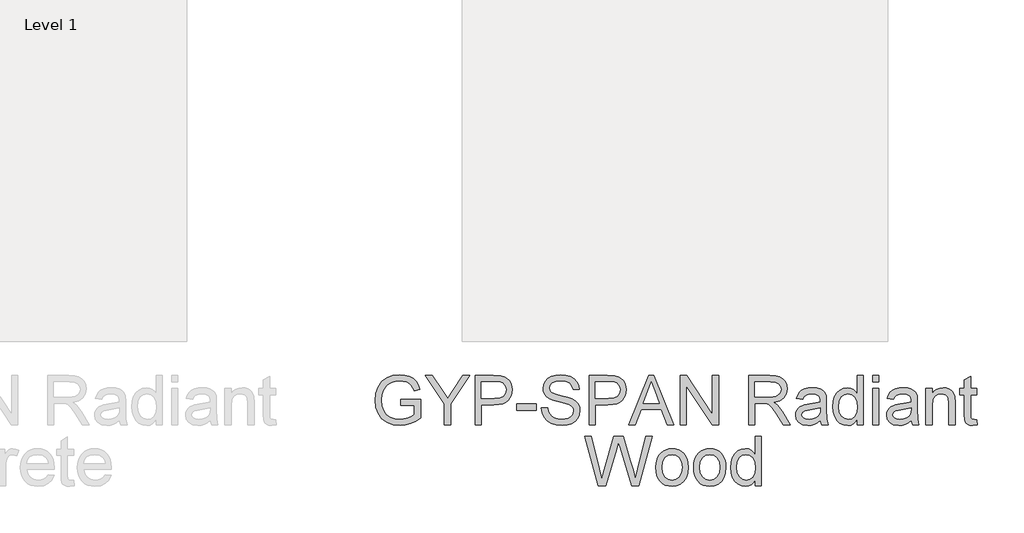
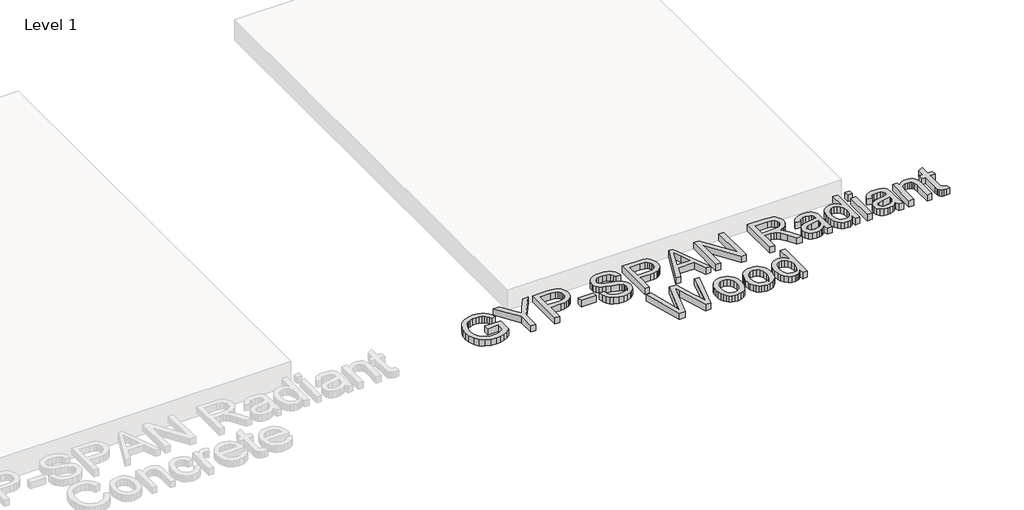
# One storey, part 2 of 2: 1 proxy.
"""IFC4 building model written with IfcOpenShell, lengths in millimetres."""

from ifc_helpers import new_model, si_unit, origin, origin_with_axes, place, context, project, spatial, polyline, outline, extrude, element, save

model = new_model("IFC4")

# Units and contexts
model_context = context("Model", 3, world=origin())
ifc_project = project(units=[si_unit("LENGTHUNIT", "METRE", prefix="MILLI")], contexts=[model_context])

# Site, building, storey
site = spatial("IfcSite", under=ifc_project)
building = spatial("IfcBuilding", under=site)
storey = spatial("IfcBuildingStorey", under=building, Name="Level 1", Elevation=0.0)

# Proxy
placement = place(None, origin())
element("IfcBuildingElementProxy", 1, Name="600mm Arial", ObjectType="600mm Arial", at=placement, inside=storey, context=model_context, shape_type="SweptSolid", body=[
    extrude(outline(polyline([(-5648.8051572, -2078.2071113), (-5648.8051572, -2040.6932652), (-5526.8851572, -2040.6932652), (-5526.8851572, -2152.8684575), (-5556.5134024, -2173.4754287), (-5587.0758303, -2188.257496), (-5618.4991717, -2197.1597075), (-5650.7101572, -2200.1271113), (-5692.7941717, -2195.4104046), (-5730.8300611, -2181.2602844), (-5762.4274169, -2158.1713181), (-5785.1958303, -2126.6380729), (-5798.9612871, -2088.8128325), (-5803.5497726, -2046.8478806), (-5798.9796044, -2004.5806931), (-5785.2690996, -1965.2625921), (-5762.9860947, -1932.2822796), (-5732.6984265, -1909.0284575), (-5695.8073688, -1895.2355248), (-5653.7141957, -1890.6378806), (-5622.8128976, -1893.3030488), (-5595.0255419, -1901.2985537), (-5571.6251813, -1914.0473998), (-5553.8848688, -1930.9725921), (-5540.7605178, -1952.8892508), (-5531.2080419, -1980.612496), (-5565.7911188, -1990.3573037), (-5573.511864, -1970.58377), (-5582.8994842, -1955.6643229), (-5595.3186188, -1944.417496), (-5612.1339072, -1935.6618229), (-5632.1822005, -1930.0292508), (-5654.3003496, -1928.1517267), (-5680.191864, -1930.1757892), (-5702.3283303, -1936.2479767), (-5720.6273207, -1945.608121), (-5735.0064072, -1957.4960537), (-5754.3128496, -1986.4007652), (-5763.1051572, -2014.7193229), (-5766.0359265, -2045.3092267), (-5762.5098447, -2081.1836738), (-5751.9315996, -2110.7020152), (-5734.6217438, -2133.6536017), (-5710.9008303, -2149.8277844), (-5683.1409505, -2159.416895), (-5653.7141957, -2162.6132652), (-5627.7310947, -2160.2045392), (-5602.3890996, -2152.9783613), (-5580.3808544, -2143.0229046), (-5564.3990034, -2132.4263421), (-5564.3990034, -2078.2071113), (-5648.8051572, -2078.2071113)])), origin_with_axes(), (0.0, 0.0, 1.0), 50.8),
    extrude(outline(polyline([(-5381.5190034, -2195.4378806), (-5381.5190034, -2068.3157652), (-5498.7497726, -1895.3271113), (-5454.4951572, -1895.3271113), (-5391.9232342, -1987.7196113), (-5359.9045803, -2034.8317267), (-5327.8126572, -1984.3492267), (-5271.0290034, -1895.3271113), (-5226.774388, -1895.3271113), (-5344.0051572, -2068.3157652), (-5344.0051572, -2195.4378806), (-5381.5190034, -2195.4378806)])), origin_with_axes(), (0.0, 0.0, 1.0), 50.8),
    extrude(outline(polyline([(-5193.9497726, -2195.4378806), (-5193.9497726, -1895.3271113), (-5082.7270803, -1895.3271113), (-5037.8863111, -1898.1846113), (-5017.8929697, -1903.5241065), (-5001.4348688, -1912.215669), (-4988.1822967, -1924.653121), (-4977.8055419, -1941.2302844), (-4971.1014072, -1960.7840104), (-4968.8666957, -1982.1511498), (-4970.3755839, -2000.573782), (-4974.9022486, -2017.521871), (-4982.4466897, -2032.9954166), (-4993.0089072, -2046.994419), (-5007.5093459, -2058.5984335), (-5026.8684505, -2066.8870152), (-5051.0862209, -2071.8601642), (-5080.1626572, -2073.5178806), (-5156.4359265, -2073.5178806), (-5156.4359265, -2195.4378806), (-5193.9497726, -2195.4378806)]), holes=[polyline([(-5156.4359265, -2036.0040344), (-5077.9645803, -2036.0040344), (-5044.7003496, -2032.5603806), (-5022.7195803, -2022.229419), (-5010.4653015, -2005.6522556), (-5006.3805419, -1983.469996), (-5008.7892678, -1966.6180729), (-5016.0154457, -1952.4038421), (-5027.1615274, -1941.7065344), (-5041.3299649, -1935.4053806), (-5078.8438111, -1932.8409575), (-5156.4359265, -1932.8409575), (-5156.4359265, -2036.0040344)])]), origin_with_axes(), (0.0, 0.0, 1.0), 50.8),
    extrude(outline(polyline([(-4940.7313111, -2106.342496), (-4940.7313111, -2068.8286498), (-4823.5005419, -2068.8286498), (-4823.5005419, -2106.342496), (-4940.7313111, -2106.342496)])), origin_with_axes(), (0.0, 0.0, 1.0), 50.8),
    extrude(outline(polyline([(-4790.6759265, -2092.2748037), (-4753.1620803, -2092.2748037), (-4748.857513, -2113.0924238), (-4741.0726572, -2129.8252844), (-4728.9282822, -2143.1053325), (-4711.5451572, -2153.5645152), (-4690.2970803, -2160.3510777), (-4666.5578496, -2162.6132652), (-4645.6578015, -2160.9005969), (-4627.3588111, -2155.7625921), (-4612.5309505, -2147.6297075), (-4602.0442919, -2136.9323998), (-4595.8072486, -2124.650645), (-4593.7282342, -2111.764419), (-4595.2852053, -2099.2079046), (-4599.9561188, -2088.3548998), (-4609.4444842, -2079.0955008), (-4625.4538111, -2071.3198037), (-4680.0760226, -2056.995669), (-4715.9321524, -2047.5164623), (-4738.8745803, -2038.4951883), (-4757.5490755, -2025.8745633), (-4770.7833303, -2010.5796113), (-4778.6689313, -1992.940044), (-4781.2974649, -1973.2855729), (-4778.0461428, -1951.3139623), (-4768.2921765, -1930.8260537), (-4752.2920082, -1913.461246), (-4730.3020803, -1900.8589383), (-4703.9068399, -1893.193145), (-4674.6907342, -1890.6378806), (-4643.0384265, -1893.3122075), (-4615.3426572, -1901.3351883), (-4592.5925611, -1914.5419671), (-4575.7772726, -1932.7676883), (-4565.1349169, -1954.8766787), (-4560.9036188, -1979.7332652), (-4598.4174649, -1979.7332652), (-4605.3047726, -1957.3495152), (-4619.6655419, -1941.1936498), (-4642.1042438, -1931.4122075), (-4673.2253496, -1928.1517267), (-4705.0791476, -1931.3755729), (-4726.9316957, -1941.0471113), (-4739.570638, -1955.2796594), (-4743.7836188, -1972.1865344), (-4740.7978976, -1986.6022556), (-4731.8407342, -1998.1971113), (-4710.6659265, -2008.5647075), (-4670.5876572, -2019.1521113), (-4629.2271765, -2029.2083133), (-4604.2057342, -2037.9823037), (-4582.8202774, -2051.5920633), (-4567.9008303, -2068.3890344), (-4559.1359986, -2088.190044), (-4556.214388, -2110.811919), (-4559.575614, -2133.93752), (-4569.6592919, -2155.6893229), (-4586.0532822, -2174.4096113), (-4608.3454457, -2188.440669), (-4635.1528255, -2197.2055008), (-4665.0924649, -2200.1271113), (-4701.8461428, -2196.9765344), (-4732.0971765, -2187.5248037), (-4756.1935947, -2171.7352844), (-4774.4834265, -2149.5713421), (-4786.2248207, -2122.5716306), (-4790.6759265, -2092.2748037)])), origin_with_axes(), (0.0, 0.0, 1.0), 50.8),
    extrude(outline(polyline([(-4499.9436188, -2195.4378806), (-4499.9436188, -1895.3271113), (-4388.7209265, -1895.3271113), (-4343.8801572, -1898.1846113), (-4323.8868159, -1903.5241065), (-4307.4287149, -1912.215669), (-4294.1761428, -1924.653121), (-4283.799388, -1941.2302844), (-4277.0952534, -1960.7840104), (-4274.8605419, -1982.1511498), (-4276.3694301, -2000.573782), (-4280.8960947, -2017.521871), (-4288.4405359, -2032.9954166), (-4299.0027534, -2046.994419), (-4313.5031921, -2058.5984335), (-4332.8622967, -2066.8870152), (-4357.0800671, -2071.8601642), (-4386.1565034, -2073.5178806), (-4462.4297726, -2073.5178806), (-4462.4297726, -2195.4378806), (-4499.9436188, -2195.4378806)]), holes=[polyline([(-4462.4297726, -2036.0040344), (-4383.9584265, -2036.0040344), (-4350.6941957, -2032.5603806), (-4328.7134265, -2022.229419), (-4316.4591476, -2005.6522556), (-4312.374388, -1983.469996), (-4314.783114, -1966.6180729), (-4322.0092919, -1952.4038421), (-4333.1553736, -1941.7065344), (-4347.3238111, -1935.4053806), (-4384.8376572, -1932.8409575), (-4462.4297726, -1932.8409575), (-4462.4297726, -2036.0040344)])]), origin_with_axes(), (0.0, 0.0, 1.0), 50.8),
    extrude(outline(polyline([(-4258.2284265, -2195.4378806), (-4138.4332342, -1895.3271113), (-4106.4878496, -1895.3271113), (-3986.6926572, -2195.4378806), (-4026.3313111, -2195.4378806), (-4060.6945803, -2101.6532652), (-4184.2997726, -2101.6532652), (-4218.5897726, -2195.4378806), (-4258.2284265, -2195.4378806)]), holes=[polyline([(-4170.5251572, -2064.139419), (-4074.3959265, -2064.139419), (-4101.4322726, -1990.3573037), (-4122.4605419, -1932.8409575), (-4141.1441957, -1983.9096113), (-4170.5251572, -2064.139419)])]), origin_with_axes(), (0.0, 0.0, 1.0), 50.8),
    extrude(outline(polyline([(-3946.614388, -2195.4378806), (-3946.614388, -1895.3271113), (-3906.4628496, -1895.3271113), (-3749.6666957, -2133.0857652), (-3749.6666957, -1895.3271113), (-3712.1528496, -1895.3271113), (-3712.1528496, -2195.4378806), (-3752.304388, -2195.4378806), (-3909.1005419, -1957.6059575), (-3909.1005419, -2195.4378806), (-3946.614388, -2195.4378806)])), origin_with_axes(), (0.0, 0.0, 1.0), 50.8),
    extrude(outline(polyline([(-3529.2728496, -2195.4378806), (-3529.2728496, -1895.3271113), (-3399.9526572, -1895.3271113), (-3365.1955659, -1897.3511738), (-3339.9085226, -1903.4233613), (-3321.4263592, -1914.6335537), (-3307.0839072, -1932.0716306), (-3297.8794601, -1953.6952123), (-3294.8113111, -1977.461919), (-3299.894364, -2007.0260537), (-3315.1435226, -2031.5346113), (-3326.6948748, -2041.5221234), (-3341.0167197, -2049.5038902), (-3377.971888, -2059.4501883), (-3356.6505419, -2075.4961498), (-3326.2438111, -2114.1090344), (-3276.2009265, -2195.4378806), (-3319.7961188, -2195.4378806), (-3358.8486188, -2133.2323037), (-3387.0572726, -2092.054996), (-3406.8765996, -2072.6020152), (-3424.7176572, -2065.4582652), (-3446.4786188, -2064.139419), (-3491.7590034, -2064.139419), (-3491.7590034, -2195.4378806), (-3529.2728496, -2195.4378806)]), holes=[polyline([(-3491.7590034, -2026.6255729), (-3407.7924649, -2026.6255729), (-3383.6777294, -2025.2975681), (-3364.9665996, -2021.3135537), (-3350.8805899, -2014.4079287), (-3340.6412149, -2004.3150921), (-3334.4041717, -1992.1066065), (-3332.3251572, -1978.8540344), (-3336.2908544, -1960.555044), (-3348.1879457, -1945.8096113), (-3368.6575371, -1936.083121), (-3398.3407342, -1932.8409575), (-3491.7590034, -1932.8409575), (-3491.7590034, -2026.6255729)])]), origin_with_axes(), (0.0, 0.0, 1.0), 50.8),
    extrude(outline(polyline([(-3093.174388, -2167.302496), (-3111.0978736, -2182.6707171), (-3129.5525611, -2192.726919), (-3148.9597486, -2198.2770633), (-3169.7407342, -2200.1271113), (-3201.0908063, -2195.6760056), (-3224.2164072, -2182.3226883), (-3238.4764313, -2162.0454287), (-3243.2297726, -2136.822496), (-3241.4346765, -2121.2711017), (-3236.049388, -2107.1484575), (-3227.742489, -2095.0590344), (-3217.1825611, -2085.6073037), (-3190.9155419, -2073.2980729), (-3158.4572726, -2067.6563421), (-3120.1008303, -2061.7215344), (-3093.3941957, -2054.7609575), (-3093.174388, -2046.4082652), (-3095.7571284, -2029.666246), (-3103.5053496, -2018.712496), (-3120.8335226, -2010.5796113), (-3144.9757342, -2007.8686498), (-3167.3228496, -2009.6729046), (-3182.9291957, -2015.085669), (-3193.5715515, -2025.0960777), (-3201.0266957, -2040.6932652), (-3238.5405419, -2036.0040344), (-3232.028739, -2015.4886498), (-3222.3114072, -1999.369419), (-3208.4818399, -1987.041871), (-3189.6333303, -1977.9015344), (-3166.5809986, -1972.2414863), (-3140.1399649, -1970.3548037), (-3114.7796524, -1972.0216787), (-3094.6764072, -1977.0223037), (-3079.5188351, -1984.5415585), (-3068.9955419, -1993.7643229), (-3062.0166476, -2005.1668469), (-3057.4922726, -2019.2253806), (-3055.6605419, -2052.049996), (-3055.6605419, -2098.722496), (-3053.7555419, -2163.8954767), (-3046.2820803, -2195.4378806), (-3083.7959265, -2195.4378806), (-3093.174388, -2167.302496)]), holes=[polyline([(-3093.174388, -2092.2748037), (-3153.6947726, -2103.7780729), (-3185.9698688, -2109.859419), (-3200.5870803, -2119.7507652), (-3205.7159265, -2134.1848037), (-3202.9225371, -2145.340044), (-3194.5423688, -2154.4803806), (-3180.7585947, -2160.580044), (-3161.754388, -2162.6132652), (-3141.6053496, -2160.369395), (-3123.8009265, -2153.6377844), (-3109.366888, -2143.7189623), (-3099.3290034, -2131.9134575), (-3094.8778976, -2119.7507652), (-3093.3941957, -2102.8988421), (-3093.174388, -2092.2748037)])]), origin_with_axes(), (0.0, 0.0, 1.0), 50.8),
    extrude(outline(polyline([(-2868.0913111, -2195.4378806), (-2868.0913111, -2160.0488421), (-2879.3152414, -2177.5830849), (-2892.911263, -2190.107544), (-2908.879376, -2197.6222195), (-2927.2195803, -2200.1271113), (-2951.4716957, -2196.5002844), (-2973.6722726, -2185.6198037), (-2992.4658303, -2168.2458373), (-3006.496888, -2145.1385537), (-3015.2342438, -2117.2321354), (-3018.1466957, -2085.4607652), (-3015.4632101, -2054.0832171), (-3007.4127534, -2025.7463421), (-2994.0044842, -2002.0620633), (-2975.2475611, -1984.6423037), (-2952.5615755, -1973.9266787), (-2927.3661188, -1970.3548037), (-2909.0121765, -1972.9100681), (-2892.7830419, -1980.5758613), (-2879.0267438, -1992.3264142), (-2868.0913111, -2007.1359575), (-2868.0913111, -1895.3271113), (-2830.5774649, -1895.3271113), (-2830.5774649, -2195.4378806), (-2868.0913111, -2195.4378806)]), holes=[polyline([(-2980.6328496, -2085.3142267), (-2976.4015515, -2119.2470392), (-2963.7076572, -2143.3800921), (-2945.2621284, -2157.8049719), (-2923.7759265, -2162.6132652), (-2902.2988832, -2158.0247796), (-2884.3204457, -2144.2593229), (-2872.1485947, -2121.0604527), (-2868.0913111, -2088.1717267), (-2872.221864, -2052.2148517), (-2884.6135226, -2027.284996), (-2903.0498928, -2012.7227363), (-2925.3145803, -2007.8686498), (-2947.0205899, -2012.5304046), (-2964.8066957, -2026.515669), (-2976.6763111, -2050.5388181), (-2980.6328496, -2085.3142267)])]), origin_with_axes(), (0.0, 0.0, 1.0), 50.8),
    extrude(outline(polyline([(-2774.3066957, -2195.4378806), (-2774.3066957, -1975.0440344), (-2736.7928496, -1975.0440344), (-2736.7928496, -2195.4378806), (-2774.3066957, -2195.4378806)])), origin_with_axes(), (0.0, 0.0, 1.0), 50.8),
    extrude(outline(polyline([(-2774.3066957, -1932.8409575), (-2774.3066957, -1895.3271113), (-2736.7928496, -1895.3271113), (-2736.7928496, -1932.8409575), (-2774.3066957, -1932.8409575)])), origin_with_axes(), (0.0, 0.0, 1.0), 50.8),
    extrude(outline(polyline([(-2539.8451572, -2167.302496), (-2557.7686428, -2182.6707171), (-2576.2233303, -2192.726919), (-2595.6305178, -2198.2770633), (-2616.4115034, -2200.1271113), (-2647.7615755, -2195.6760056), (-2670.8871765, -2182.3226883), (-2685.1472005, -2162.0454287), (-2689.9005419, -2136.822496), (-2688.1054457, -2121.2711017), (-2682.7201572, -2107.1484575), (-2674.4132582, -2095.0590344), (-2663.8533303, -2085.6073037), (-2637.5863111, -2073.2980729), (-2605.1280419, -2067.6563421), (-2566.7715996, -2061.7215344), (-2540.0649649, -2054.7609575), (-2539.8451572, -2046.4082652), (-2542.4278976, -2029.666246), (-2550.1761188, -2018.712496), (-2567.5042919, -2010.5796113), (-2591.6465034, -2007.8686498), (-2613.9936188, -2009.6729046), (-2629.5999649, -2015.085669), (-2640.2423207, -2025.0960777), (-2647.6974649, -2040.6932652), (-2685.2113111, -2036.0040344), (-2678.6995082, -2015.4886498), (-2668.9821765, -1999.369419), (-2655.1526092, -1987.041871), (-2636.3040996, -1977.9015344), (-2613.2517678, -1972.2414863), (-2586.8107342, -1970.3548037), (-2561.4504217, -1972.0216787), (-2541.3471765, -1977.0223037), (-2526.1896044, -1984.5415585), (-2515.6663111, -1993.7643229), (-2508.6874169, -2005.1668469), (-2504.1630419, -2019.2253806), (-2502.3313111, -2052.049996), (-2502.3313111, -2098.722496), (-2500.4263111, -2163.8954767), (-2492.9528496, -2195.4378806), (-2530.4666957, -2195.4378806), (-2539.8451572, -2167.302496)]), holes=[polyline([(-2539.8451572, -2092.2748037), (-2600.3655419, -2103.7780729), (-2632.640638, -2109.859419), (-2647.2578496, -2119.7507652), (-2652.3866957, -2134.1848037), (-2649.5933063, -2145.340044), (-2641.213138, -2154.4803806), (-2627.429364, -2160.580044), (-2608.4251572, -2162.6132652), (-2588.2761188, -2160.369395), (-2570.4716957, -2153.6377844), (-2556.0376572, -2143.7189623), (-2545.9997726, -2131.9134575), (-2541.5486669, -2119.7507652), (-2540.0649649, -2102.8988421), (-2539.8451572, -2092.2748037)])]), origin_with_axes(), (0.0, 0.0, 1.0), 50.8),
    extrude(outline(polyline([(-2450.7497726, -2195.4378806), (-2450.7497726, -1975.0440344), (-2413.2359265, -1975.0440344), (-2413.2359265, -2005.8171113), (-2400.2031621, -1990.3023517), (-2384.5510226, -1979.2203806), (-2366.2795082, -1972.5711979), (-2345.3886188, -1970.3548037), (-2326.8972967, -1972.1407412), (-2309.9629457, -1977.4985537), (-2295.8403015, -1985.7596594), (-2285.7840996, -1996.2554767), (-2274.5372726, -2023.8413421), (-2272.5590034, -2060.1096113), (-2272.5590034, -2195.4378806), (-2310.0728496, -2195.4378806), (-2310.0728496, -2065.1651883), (-2314.3957342, -2031.9742267), (-2320.3763351, -2022.0920392), (-2329.6723688, -2014.426246), (-2341.5877774, -2009.5080488), (-2355.4265034, -2007.8686498), (-2377.398114, -2011.5504287), (-2396.1275611, -2022.5957652), (-2403.6124709, -2031.6124599), (-2408.9588351, -2043.9354287), (-2413.2359265, -2078.5001883), (-2413.2359265, -2195.4378806), (-2450.7497726, -2195.4378806)])), origin_with_axes(), (0.0, 0.0, 1.0), 50.8),
    extrude(outline(polyline([(-2141.2605419, -2164.151919), (-2136.5713111, -2196.536919), (-2164.6334265, -2200.1271113), (-2182.6393399, -2198.5701402), (-2196.0659265, -2193.8992267), (-2205.5542919, -2186.7005248), (-2211.7455419, -2177.5601883), (-2215.1525611, -2161.8622556), (-2216.2882342, -2134.9907652), (-2216.2882342, -2012.5578806), (-2244.4236188, -2012.5578806), (-2244.4236188, -1975.0440344), (-2216.2882342, -1975.0440344), (-2216.2882342, -1921.4842267), (-2178.774388, -1899.4301883), (-2178.774388, -1975.0440344), (-2141.2605419, -1975.0440344), (-2141.2605419, -2012.5578806), (-2178.774388, -2012.5578806), (-2178.774388, -2133.8917267), (-2176.7961188, -2153.2348037), (-2170.3850611, -2160.0854767), (-2157.5995803, -2162.6132652), (-2141.2605419, -2164.151919)])), origin_with_axes(), (0.0, 0.0, 1.0), 50.8),
    extrude(outline(polyline([(-4443.8926572, -2565.8871113), (-4525.734388, -2265.7763421), (-4487.0482342, -2265.7763421), (-4439.5697726, -2463.0171113), (-4424.9159265, -2523.9038421), (-4409.2363111, -2470.0509575), (-4349.7416957, -2265.7763421), (-4293.9838111, -2265.7763421), (-4250.7549649, -2413.8534575), (-4232.2361669, -2468.8053806), (-4218.5897726, -2523.9038421), (-4204.3755419, -2464.7755729), (-4156.4574649, -2265.7763421), (-4117.7713111, -2265.7763421), (-4199.6863111, -2565.8871113), (-4239.7645803, -2565.8871113), (-4311.7149649, -2334.3563421), (-4321.7528496, -2302.0446113), (-4333.0363111, -2340.9505729), (-4398.6122726, -2565.8871113), (-4443.8926572, -2565.8871113)])), origin_with_axes(), (0.0, 0.0, 1.0), 50.8),
    extrude(outline(polyline([(-4094.3251572, -2455.6901883), (-4092.2965154, -2427.1472436), (-4086.2105899, -2402.5516787), (-4076.0673808, -2381.9034936), (-4061.866888, -2365.2026883), (-4047.5702294, -2354.5282772), (-4031.7898688, -2346.9036979), (-4014.5258063, -2342.3289503), (-3995.7780419, -2340.8040344), (-3975.0817738, -2342.6609515), (-3956.3683544, -2348.2317027), (-3939.6377834, -2357.516288), (-3924.8900611, -2370.5147075), (-3912.8533003, -2386.7873457), (-3904.255614, -2405.8945873), (-3899.0970022, -2427.8364323), (-3897.3774649, -2452.6128806), (-3900.418138, -2490.5113902), (-3909.5401572, -2519.3611498), (-3924.4779217, -2540.9664142), (-3944.9658303, -2557.1314383), (-3969.3003736, -2567.2151162), (-3995.7780419, -2570.5763421), (-4016.7765455, -2568.726294), (-4035.6639794, -2563.1761498), (-4052.4403435, -2553.9259094), (-4067.105638, -2540.9755729), (-4079.0141777, -2524.5449479), (-4087.5202774, -2504.8538421), (-4092.6239373, -2481.9022556), (-4094.3251572, -2455.6901883)]), holes=[polyline([(-4056.8113111, -2455.616919), (-4052.4701092, -2489.5680488), (-4039.4465034, -2513.7560537), (-4019.8469842, -2528.2358854), (-3995.7780419, -2533.062496), (-3971.8190034, -2528.2084094), (-3952.2561188, -2513.6461498), (-3939.232513, -2489.1375921), (-3934.8913111, -2454.4446113), (-3939.259989, -2421.4826162), (-3952.3660226, -2397.6243229), (-3971.9563832, -2383.1444912), (-3995.7780419, -2378.3178806), (-4019.8469842, -2383.1261738), (-4039.4465034, -2397.5510537), (-4052.4701092, -2421.6841065), (-4056.8113111, -2455.616919)])]), origin_with_axes(), (0.0, 0.0, 1.0), 50.8),
    extrude(outline(polyline([(-3864.5528496, -2455.6901883), (-3862.5242077, -2427.1472436), (-3856.4382822, -2402.5516787), (-3846.2950731, -2381.9034936), (-3832.0945803, -2365.2026883), (-3817.7979217, -2354.5282772), (-3802.0175611, -2346.9036979), (-3784.7534986, -2342.3289503), (-3766.0057342, -2340.8040344), (-3745.3094661, -2342.6609515), (-3726.5960467, -2348.2317027), (-3709.8654758, -2357.516288), (-3695.1177534, -2370.5147075), (-3683.0809926, -2386.7873457), (-3674.4833063, -2405.8945873), (-3669.3246945, -2427.8364323), (-3667.6051572, -2452.6128806), (-3670.6458303, -2490.5113902), (-3679.7678496, -2519.3611498), (-3694.705614, -2540.9664142), (-3715.1935226, -2557.1314383), (-3739.5280659, -2567.2151162), (-3766.0057342, -2570.5763421), (-3787.0042378, -2568.726294), (-3805.8916717, -2563.1761498), (-3822.6680359, -2553.9259094), (-3837.3333303, -2540.9755729), (-3849.24187, -2524.5449479), (-3857.7479697, -2504.8538421), (-3862.8516296, -2481.9022556), (-3864.5528496, -2455.6901883)]), holes=[polyline([(-3827.0390034, -2455.616919), (-3822.6978015, -2489.5680488), (-3809.6741957, -2513.7560537), (-3790.0746765, -2528.2358854), (-3766.0057342, -2533.062496), (-3742.0466957, -2528.2084094), (-3722.4838111, -2513.6461498), (-3709.4602053, -2489.1375921), (-3705.1190034, -2454.4446113), (-3709.4876813, -2421.4826162), (-3722.5937149, -2397.6243229), (-3742.1840755, -2383.1444912), (-3766.0057342, -2378.3178806), (-3790.0746765, -2383.1261738), (-3809.6741957, -2397.5510537), (-3822.6978015, -2421.6841065), (-3827.0390034, -2455.616919)])]), origin_with_axes(), (0.0, 0.0, 1.0), 50.8),
    extrude(outline(polyline([(-3489.414388, -2565.8871113), (-3489.414388, -2530.4980729), (-3500.6383183, -2548.0323157), (-3514.2343399, -2560.5567748), (-3530.2024529, -2568.0714503), (-3548.5426572, -2570.5763421), (-3572.7947726, -2566.9495152), (-3594.9953496, -2556.0690344), (-3613.7889072, -2538.6950681), (-3627.8199649, -2515.5877844), (-3636.5573207, -2487.6813662), (-3639.4697726, -2455.909996), (-3636.7862871, -2424.5324479), (-3628.7358303, -2396.1955729), (-3615.3275611, -2372.511294), (-3596.570638, -2355.0915344), (-3573.8846524, -2344.3759094), (-3548.6891957, -2340.8040344), (-3530.3352534, -2343.3592988), (-3514.1061188, -2351.0250921), (-3500.3498207, -2362.775645), (-3489.414388, -2377.5851883), (-3489.414388, -2265.7763421), (-3451.9005419, -2265.7763421), (-3451.9005419, -2565.8871113), (-3489.414388, -2565.8871113)]), holes=[polyline([(-3601.9559265, -2455.7634575), (-3597.7246284, -2489.69627), (-3585.0307342, -2513.8293229), (-3566.5852053, -2528.2542027), (-3545.0990034, -2533.062496), (-3523.6219601, -2528.4740104), (-3505.6435226, -2514.7085537), (-3493.4716717, -2491.5096835), (-3489.414388, -2458.6209575), (-3493.5449409, -2422.6640825), (-3505.9365996, -2397.7342267), (-3524.3729697, -2383.1719671), (-3546.6376572, -2378.3178806), (-3568.3436669, -2382.9796354), (-3586.1297726, -2396.9648998), (-3597.999388, -2420.9880488), (-3601.9559265, -2455.7634575)])]), origin_with_axes(), (0.0, 0.0, 1.0), 50.8),
])

save(model, "model.ifc")
